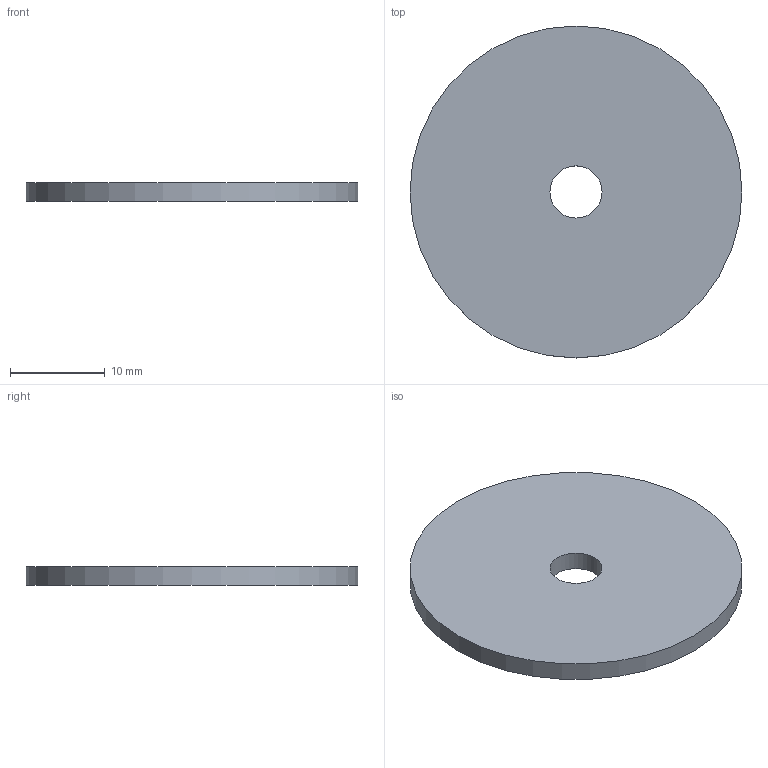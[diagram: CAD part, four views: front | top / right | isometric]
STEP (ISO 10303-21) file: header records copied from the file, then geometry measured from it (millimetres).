
FILE_DESCRIPTION( ( 'Unknown' ), '1' );
FILE_NAME( 'F:/navkite transat/construction/2016/3D ET ASSEMBLAGES/self tailing/WI 10.stp', 'Unknown', ( 'GMA' ), ( 'Unknown' ), 'XStep 1.0', 'Unknown', ' ' );
FILE_SCHEMA( ( 'automotive_design' ) );
Length unit declared in the file: millimetre
Products named in the file (1): 1
Bounding box: 35 x 35 x 2 mm (x, y, z)
Volume: 1876.7 mm3; surface area: 2131.2 mm2
Topology: 1 solids, 1 shells, 4 faces, 7 edges, 5 vertices
Faces by surface type: cylinder 2, plane 2
Full cylindrical faces by diameter (mm): 5.5 x1, 35 x1
Entity records: 136 total; most frequent: DIRECTION 18, CARTESIAN_POINT 13, AXIS2_PLACEMENT_3D 9, EDGE_LOOP 8, ORIENTED_EDGE 8, FACE_OUTER_BOUND 6, STYLED_ITEM 4, PRESENTATION_STYLE_ASSIGNMENT 4
